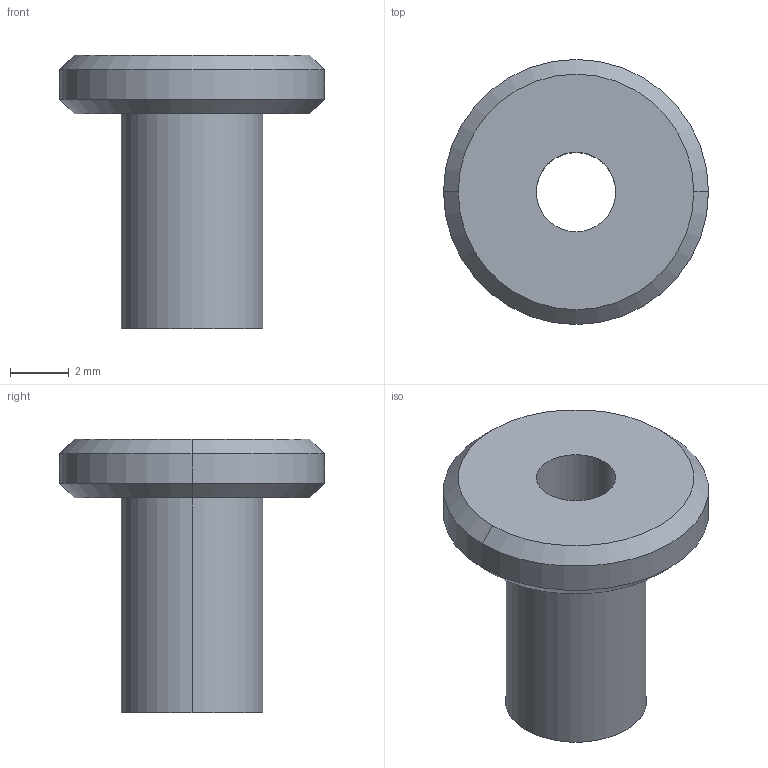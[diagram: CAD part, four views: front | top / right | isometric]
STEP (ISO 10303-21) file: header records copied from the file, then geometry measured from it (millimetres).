
FILE_DESCRIPTION(/* description */ ('VariCAD 2010-3.03 AP-214'),/* implementation_level */ '2;1');
FILE_NAME(/* name */ '0353-19-92',/* time_stamp */ '2011-03-02T15:34:29-07:00',/* author */ (''),/* organization */ (''),/* preprocessor_version */ 'ST-DEVELOPER v12',/* originating_system */ 'VariCAD 2010-3.03; kernel version (20100102)',/* authorisation */ '');
FILE_SCHEMA (('AUTOMOTIVE_DESIGN'));
Length unit declared in the file: millimetre
Products named in the file (1): Part
Bounding box: 9 x 9 x 9.3 mm (x, y, z)
Volume: 199.3 mm3; surface area: 344.1 mm2
Topology: 1 solids, 1 shells, 13 faces, 26 edges, 16 vertices
Faces by surface type: cylinder 6, cone 4, plane 3
Entity records: 375 total; most frequent: DIRECTION 72, CARTESIAN_POINT 57, ORIENTED_EDGE 52, AXIS2_PLACEMENT_3D 31, EDGE_CURVE 26, EDGE_LOOP 16, CIRCLE 16, VERTEX_POINT 16
